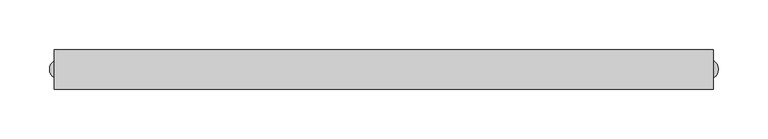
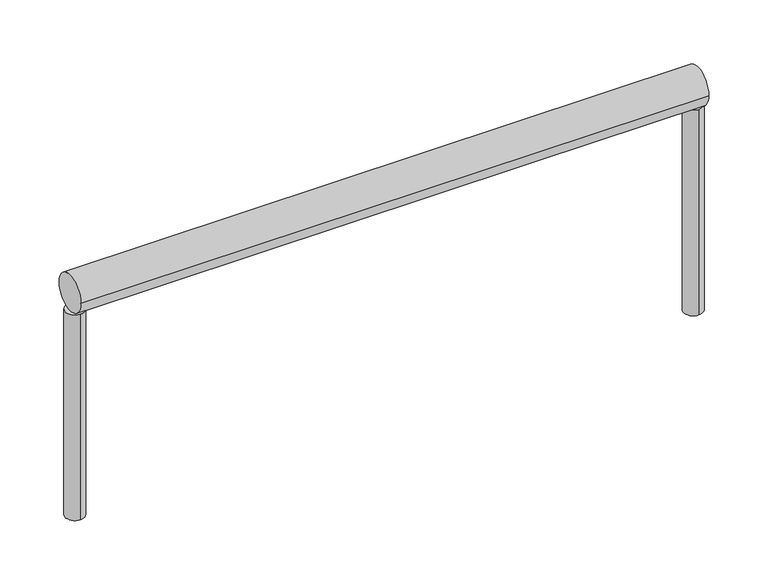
"""IFC4 building model written with IfcOpenShell, lengths in millimetres: railing geometry, Geländer-1."""

import ifcopenshell
import ifcopenshell.guid

model = None  # the IFC model being written
_history = None  # IfcOwnerHistory: only IFC2X3 demands one
_inside = {}  # id of a spatial element -> (the spatial element, [elements in it])
_under = {}  # id of a project, library or spatial element -> (it, [spatial elements below it])
_declared = {}  # id of a project -> (the project, [libraries it declares])
_typed = {}  # id of a type object -> (the type object, [elements of that type])
_made_of = {}  # id of a material, layer set ... -> (it, [elements and type objects made of it])


def new_model(schema):
    """Start an empty IFC model of exactly this schema.

    Asked for "IFC4X3", IfcOpenShell would pick the latest addendum, in which some entities
    have other attributes; the version numbers below select the first issue.
    IFC2X3 requires an IfcOwnerHistory on every rooted entity: one is made here for all.
    """
    global model, _history
    if schema == "IFC4X3":
        model = ifcopenshell.file(schema_version=(4, 3, 0, 0))
    else:
        model = ifcopenshell.file(schema=schema)
    _inside.clear()
    _under.clear()
    _declared.clear()
    _typed.clear()
    _made_of.clear()
    _history = None
    if model.schema == "IFC2X3":
        org = make("IfcOrganization", Name="unknown")
        user = make(
            "IfcPersonAndOrganization",
            ThePerson=make("IfcPerson", FamilyName="unknown"),
            TheOrganization=org,
        )
        app = make(
            "IfcApplication",
            ApplicationDeveloper=org,
            Version="unknown",
            ApplicationFullName="unknown",
            ApplicationIdentifier="unknown",
        )
        _history = make(
            "IfcOwnerHistory",
            OwningUser=user,
            OwningApplication=app,
            ChangeAction="ADDED",
            CreationDate=0,
        )
    return model


def make(cls, **values):
    """One entity of the class cls with the attributes given. An attribute that is None is left unset."""
    return model.create_entity(
        cls, **{name: value for name, value in values.items() if value is not None}
    )


def rooted(cls, **values):
    """An entity with a GlobalId (a new one), such as an element, a storey or a relation."""
    return make(cls, GlobalId=ifcopenshell.guid.new(), OwnerHistory=_history, **values)


def si_unit(unit_type, name, prefix=None):
    """IfcSIUnit, for example si_unit("LENGTHUNIT", "METRE", prefix="MILLI")."""
    return make("IfcSIUnit", UnitType=unit_type, Prefix=prefix, Name=name)


def assignment(units):
    """IfcUnitAssignment: the units of a project."""
    return None if units is None else make("IfcUnitAssignment", Units=units)


def point(xyz):
    """IfcCartesianPoint."""
    return None if xyz is None else make("IfcCartesianPoint", Coordinates=xyz)


def direction(xyz):
    """IfcDirection."""
    return None if xyz is None else make("IfcDirection", DirectionRatios=xyz)


def frame(location, z_axis=None, x_axis=None):
    """IfcAxis2Placement3D, a coordinate frame: its origin and axes. An axis left out is left unset."""
    return make(
        "IfcAxis2Placement3D",
        Location=point(location),
        Axis=direction(z_axis),
        RefDirection=direction(x_axis),
    )


def frame_2d(location, x_axis=None):
    """IfcAxis2Placement2D, a coordinate frame in the plane: its origin and x axis."""
    return make(
        "IfcAxis2Placement2D", Location=point(location), RefDirection=direction(x_axis)
    )


def origin():
    """The frame at (0, 0, 0) with its axes left unset."""
    return frame((0.0, 0.0, 0.0))


def place(relative_to, where):
    """IfcLocalPlacement: puts the frame where relative to a parent placement (None: the world)."""
    return make(
        "IfcLocalPlacement", PlacementRelTo=relative_to, RelativePlacement=where
    )


def context(
    kind, dimensions, precision=None, world=None, true_north=None, identifier=None
):
    """IfcGeometricRepresentationContext, for example the 3D "Model" context."""
    return make(
        "IfcGeometricRepresentationContext",
        ContextIdentifier=identifier,
        ContextType=kind,
        CoordinateSpaceDimension=dimensions,
        Precision=precision,
        WorldCoordinateSystem=world,
        TrueNorth=true_north,
    )


def project(units=None, contexts=None):
    """IfcProject with its units and contexts."""
    return rooted(
        "IfcProject",
        Name="project",
        RepresentationContexts=contexts,
        UnitsInContext=assignment(units),
    )


def spatial(cls, under=None, at=None, **own):
    """A site, building, storey or space (cls), placed at a placement, below another one or the project."""
    s = rooted(cls, ObjectPlacement=at, **own)
    if under is not None:
        _under.setdefault(under.id(), (under, []))[1].append(s)
    return s


def circle_curve(where, radius):
    """IfcCircle in the frame where."""
    return make("IfcCircle", Position=where, Radius=radius)


def trimmed(basis, trim1, trim2, sense, master):
    """IfcTrimmedCurve: the piece of a basis curve between two trims."""
    return make(
        "IfcTrimmedCurve",
        BasisCurve=basis,
        Trim1=trim1,
        Trim2=trim2,
        SenseAgreement=sense,
        MasterRepresentation=master,
    )


def segment(curve, same_sense, transition):
    """IfcCompositeCurveSegment."""
    return make(
        "IfcCompositeCurveSegment",
        Transition=transition,
        SameSense=same_sense,
        ParentCurve=curve,
    )


def composite_curve(segments, self_intersect=None):
    """IfcCompositeCurve: segments joined end to end."""
    return make("IfcCompositeCurve", Segments=segments, SelfIntersect=self_intersect)


def outline(outer, holes=None, kind="AREA"):
    """IfcArbitraryClosedProfileDef: a profile drawn as a closed curve; with holes, ...WithVoids."""
    if holes is None:
        return make("IfcArbitraryClosedProfileDef", ProfileType=kind, OuterCurve=outer)
    return make(
        "IfcArbitraryProfileDefWithVoids",
        ProfileType=kind,
        OuterCurve=outer,
        InnerCurves=holes,
    )


def extrude(swept, where, along, depth):
    """IfcExtrudedAreaSolid: the profile swept, set in the frame where, extruded along a direction by depth."""
    return make(
        "IfcExtrudedAreaSolid",
        SweptArea=swept,
        Position=where,
        ExtrudedDirection=direction(along),
        Depth=depth,
    )


def shape(context_of_items, identifier, shape_type, items):
    """IfcShapeRepresentation: the items that make up one representation, for example the "Body"."""
    return make(
        "IfcShapeRepresentation",
        ContextOfItems=context_of_items,
        RepresentationIdentifier=identifier,
        RepresentationType=shape_type,
        Items=items,
    )


def source(mapping_origin, context_of_items, identifier, shape_type, items):
    """IfcRepresentationMap: a shape defined once, which mapped items show again and again."""
    return make(
        "IfcRepresentationMap",
        MappingOrigin=mapping_origin,
        MappedRepresentation=shape(context_of_items, identifier, shape_type, items),
    )


def transform(
    local_origin,
    x_axis=None,
    y_axis=None,
    z_axis=None,
    scale=None,
    scale2=None,
    scale3=None,
    uniform=True,
):
    """IfcCartesianTransformationOperator3D, or its non-uniform kind. x_axis, y_axis, z_axis: its Axis1, 2, 3."""
    if uniform:
        return make(
            "IfcCartesianTransformationOperator3D",
            Axis1=direction(x_axis),
            Axis2=direction(y_axis),
            LocalOrigin=point(local_origin),
            Scale=scale,
            Axis3=direction(z_axis),
        )
    return make(
        "IfcCartesianTransformationOperator3DnonUniform",
        Axis1=direction(x_axis),
        Axis2=direction(y_axis),
        LocalOrigin=point(local_origin),
        Scale=scale,
        Axis3=direction(z_axis),
        Scale2=scale2,
        Scale3=scale3,
    )


def mapped(mapping_source, mapping_target):
    """IfcMappedItem: shows the shape of a source again, moved by a transform."""
    return make(
        "IfcMappedItem", MappingSource=mapping_source, MappingTarget=mapping_target
    )


def made_of(thing, what):
    """Note that an element or type object is made of a material, layer set ...; save() writes the relation."""
    if what is not None:
        _made_of.setdefault(what.id(), (what, []))[1].append(thing)
    return thing


def element(
    cls,
    number,
    at=None,
    inside=None,
    cuts=None,
    type_object=None,
    material=None,
    context=None,
    identifier="Body",
    shape_type=None,
    held_by="IfcProductDefinitionShape",
    body=None,
    shapes=None,
    **own,
):
    """One element of the class cls, such as IfcWall. Its Tag is "e" and its number.

    at: its placement. inside: the storey or other place that contains it. cuts: it is an
    opening in that element (IfcRelVoidsElement). A single representation is given by context,
    identifier, shape_type and body (its items); several are given by shapes. held_by: the class
    of the entity that holds the representations. save() writes the other relations.
    """
    e = rooted(cls, Tag="e%d" % number, ObjectPlacement=at, **own)
    if body is not None:
        shapes = [shape(context, identifier, shape_type, body)]
    if shapes is not None:
        e.Representation = make(held_by, Representations=shapes)
    if inside is not None:
        _inside.setdefault(inside.id(), (inside, []))[1].append(e)
    if cuts is not None:
        rooted(
            "IfcRelVoidsElement", RelatingBuildingElement=cuts, RelatedOpeningElement=e
        )
    if type_object is not None:
        _typed.setdefault(type_object.id(), (type_object, []))[1].append(e)
    return made_of(e, material)


def aggregate(whole, parts):
    """IfcRelAggregates: a whole, such as a stair, and the parts it consists of."""
    return rooted("IfcRelAggregates", RelatingObject=whole, RelatedObjects=parts)


def save(model, path):
    """Write the relations noted so far, then the file.

    IfcRelAggregates (storeys below a building ...), IfcRelContainedInSpatialStructure (elements
    in a storey), IfcRelDefinesByType, IfcRelAssociatesMaterial and IfcRelDeclares: one each for
    every whole, place, type object, material and project.
    """
    for whole, parts in _under.values():
        aggregate(whole, parts)
    for where, things in _inside.values():
        rooted(
            "IfcRelContainedInSpatialStructure",
            RelatedElements=things,
            RelatingStructure=where,
        )
    for kind, things in _typed.values():
        rooted("IfcRelDefinesByType", RelatedObjects=things, RelatingType=kind)
    for what, things in _made_of.values():
        rooted("IfcRelAssociatesMaterial", RelatedObjects=things, RelatingMaterial=what)
    for by, libraries in _declared.values():
        rooted("IfcRelDeclares", RelatingContext=by, RelatedDefinitions=libraries)
    model.write(path)


def railing_879b9470(model_context):
    return source(origin(), model_context, "Body", "SweptSolid", [
        extrude(outline(composite_curve([segment(trimmed(circle_curve(frame_2d((11967.461541, 1750.0)), 20.0), [point((11947.461541, 1750.0))], [point((11987.461541, 1750.0))], False, "CARTESIAN"), True, "CONTINUOUS"), segment(trimmed(circle_curve(frame_2d((11967.461541, 1750.0)), 20.0), [point((11987.461541, 1750.0))], [point((11947.461541, 1750.0))], False, "CARTESIAN"), True, "CONTINUOUS")], self_intersect=False)), frame((760.7038956, 0.0, 0.0), z_axis=(1.0, 0.0, 0.0), x_axis=(0.0, 1.0, 0.0)), (0.0, 0.0, 1.0), 665.0),
        extrude(outline(composite_curve([segment(trimmed(circle_curve(frame_2d((765.7038956, 11967.461541)), 10.0), [point((765.7038956, 11957.461541))], [point((765.7038956, 11977.461541))], False, "CARTESIAN"), True, "CONTINUOUS"), segment(trimmed(circle_curve(frame_2d((765.7038956, 11967.461541)), 10.0), [point((765.7038956, 11977.461541))], [point((765.7038956, 11957.461541))], False, "CARTESIAN"), True, "CONTINUOUS")], self_intersect=False)), frame((0.0, 0.0, 1500.0), z_axis=(0.0, 0.0, 1.0), x_axis=(1.0, 0.0, 0.0)), (0.0, 0.0, 1.0), 230.0),
        extrude(outline(composite_curve([segment(trimmed(circle_curve(frame_2d((1420.7038956, 11967.461541)), 10.0), [point((1420.7038956, 11957.461541))], [point((1420.7038956, 11977.461541))], False, "CARTESIAN"), True, "CONTINUOUS"), segment(trimmed(circle_curve(frame_2d((1420.7038956, 11967.461541)), 10.0), [point((1420.7038956, 11977.461541))], [point((1420.7038956, 11957.461541))], False, "CARTESIAN"), True, "CONTINUOUS")], self_intersect=False)), frame((0.0, 0.0, 1500.0), z_axis=(0.0, 0.0, 1.0), x_axis=(1.0, 0.0, 0.0)), (0.0, 0.0, 1.0), 230.0),
    ])


if __name__ == "__main__":
    model = new_model("IFC4")
    model_context = context("Model", 3, world=origin())
    ifc_project = project(units=[si_unit("LENGTHUNIT", "METRE", prefix="MILLI")], contexts=[model_context])
    site = spatial("IfcSite", under=ifc_project)
    building = spatial("IfcBuilding", under=site)
    placement = place(None, origin())
    railing_shape = railing_879b9470(model_context)
    element("IfcRailing", 1, ObjectType="Geländer-1", at=placement, inside=building, context=model_context, shape_type="MappedRepresentation", body=[
        mapped(railing_shape, transform((0.0, 0.0, 0.0), x_axis=(1.0, 0.0, 0.0), y_axis=(0.0, 1.0, 0.0), z_axis=(0.0, 0.0, 1.0))),
    ])
    save(model, "model.ifc")
